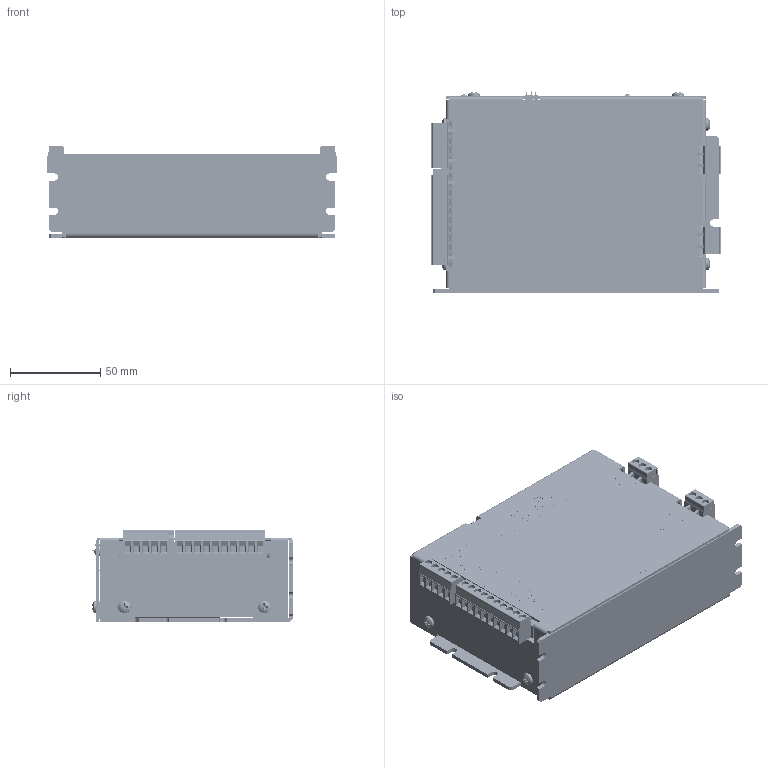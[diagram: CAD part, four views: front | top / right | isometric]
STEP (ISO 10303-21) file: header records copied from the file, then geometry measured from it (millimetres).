
FILE_DESCRIPTION (( 'STEP AP214' ), '1' );
FILE_NAME ('MDC200-048051.STEP', '2011-02-09T23:30:11', ( '' ), ( '' ), 'SwSTEP 2.0', 'SolidWorks 2011', '' );
FILE_SCHEMA (( 'AUTOMOTIVE_DESIGN' ));
Length unit declared in the file: inch
Products named in the file (36): 1754601; 1754504; 1754465; 8pan cross head_ai_CR-PHMS 0.138-32x0.25x0.25-S; Cover, MDC200-048051; flat head screw_ai_CR-FHMS 0.138-32x0.375x0.375-S; SUB-AA4687B-1; FUS-5MMTYPE; CLP-44FH052; VRG-TL783CKC; 8pan cross head_ai_CR-PHMS 0.112-40x0.25x0.25-S; WSH-KE3049; TRS-IRF540N_; Heat Sink, MDC200-048051; 7pan cross head_ai_CR-PHMS 0.138-32x0.5x0.5-S; Standoff, 6-32x.250, ROUND_6-32 x .250; 5pan cross head_ai_CR-PHMS 0.138-32x0.375x0.375-S; Standoff, 6-32x.250_STD-6321.250H; CAP-0177; SWT-BP05YT_SWT-BP05YT; SWT-BP04YT_SWT-BP04YT; POT-0018; POT-0021; POT-0009; CON-0026; LED-RA Series_LED-0002; LED-RA Series_LED-0001; LED-RA Series_LED-0005; RES-3W-.05; CAP-0145; 1757488; 1757543; 1757501; AA4687BPCB; Base Plate, MDC200-048051; MDC200-048051
Assembly tree (68 placements, depth 3):
  MDC200-048051
    1754465  x2
    8pan cross head_ai_CR-PHMS 0.138-32x0.25x0.25-S  x6
    1754504
    flat head screw_ai_CR-FHMS 0.138-32x0.375x0.375-S  x4
    Cover, MDC200-048051
    Base Plate, MDC200-048051
    SUB-AA4687B-1
      8pan cross head_ai_CR-PHMS 0.112-40x0.25x0.25-S  x7
      Standoff, 6-32x.250, ROUND_6-32 x .250  x2
      WSH-KE3049  x7
      5pan cross head_ai_CR-PHMS 0.138-32x0.375x0.375-S  x2
      Standoff, 6-32x.250_STD-6321.250H  x2
      RES-3W-.05
      1757488  x2
      CLP-44FH052  x2
      VRG-TL783CKC
      TRS-IRF540N_  x6
      POT-0018
      LED-RA Series_LED-0005
      SWT-BP04YT_SWT-BP04YT
      CAP-0145  x2
      FUS-5MMTYPE
      CAP-0177
      LED-RA Series_LED-0002
      POT-0021
      CON-0026
      1757543
      Heat Sink, MDC200-048051
      7pan cross head_ai_CR-PHMS 0.138-32x0.5x0.5-S  x2
      POT-0009
      LED-RA Series_LED-0001
      AA4687BPCB
      SWT-BP05YT_SWT-BP05YT
      1757501
    1754601
Bounding box: 160.45 x 111.76 x 50.76 mm (x, y, z)
Volume: 196967.4 mm3; surface area: 185701 mm2
Topology: 67 solids, 67 shells, 11662 faces, 29999 edges, 19390 vertices
Faces by surface type: plane 7064, bspline 1753, cylinder 1735, cone 945, torus 128, sphere 37
Entity records: 493532 total; most frequent: CARTESIAN_POINT 152915, ORIENTED_EDGE 49008, DIRECTION 39568, EDGE_CURVE 24504, VECTOR 17764, LINE 17764, VERTEX_POINT 15955, AXIS2_PLACEMENT_3D 10902
